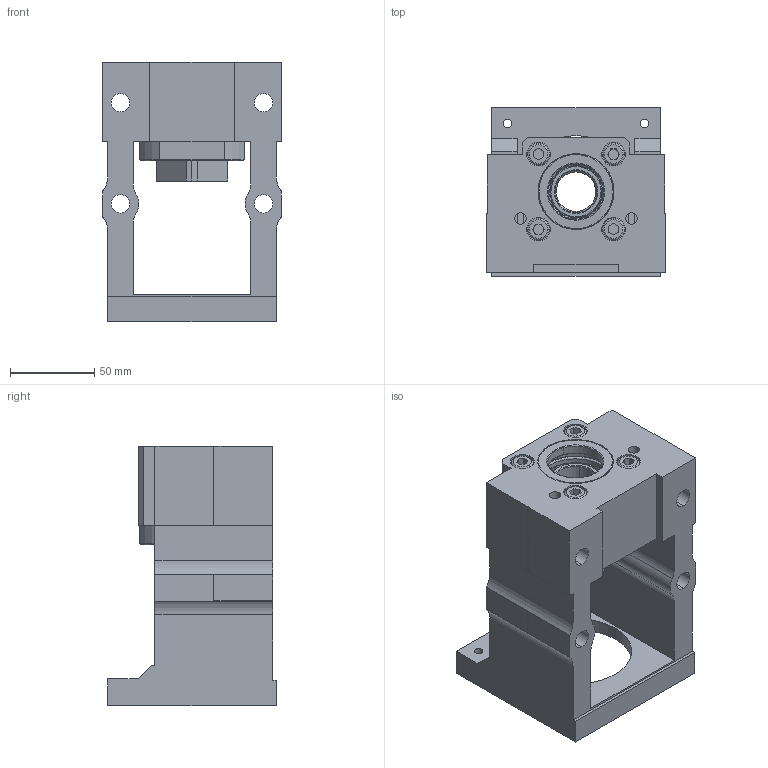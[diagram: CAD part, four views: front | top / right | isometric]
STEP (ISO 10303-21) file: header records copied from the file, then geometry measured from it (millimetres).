
FILE_DESCRIPTION (( 'STEP AP203' ), '1' );
FILE_NAME ('MBC25-YP²Õ¦X¥ó.STEP', '2017-12-28T06:45:30', ( '' ), ( '' ), 'SwSTEP 2.0', 'SolidWorks 2017', '' );
FILE_SCHEMA (( 'CONFIG_CONTROL_DESIGN' ));
Length unit declared in the file: millimetre
Products named in the file (1): MBC25-YP組合件
Bounding box: 106 x 100 x 154 mm (x, y, z)
Surface area: 121098.1 mm2 (no closed solid volume)
Topology: 0 solids, 32 shells, 302 faces, 830 edges, 547 vertices
Faces by surface type: plane 110, cylinder 100, cone 36, sphere 28, torus 26, bspline 2
Entity records: 9494 total; most frequent: CARTESIAN_POINT 1976, DIRECTION 1677, ORIENTED_EDGE 1369, EDGE_CURVE 760, AXIS2_PLACEMENT_3D 654, VERTEX_POINT 505, VECTOR 369, LINE 369
